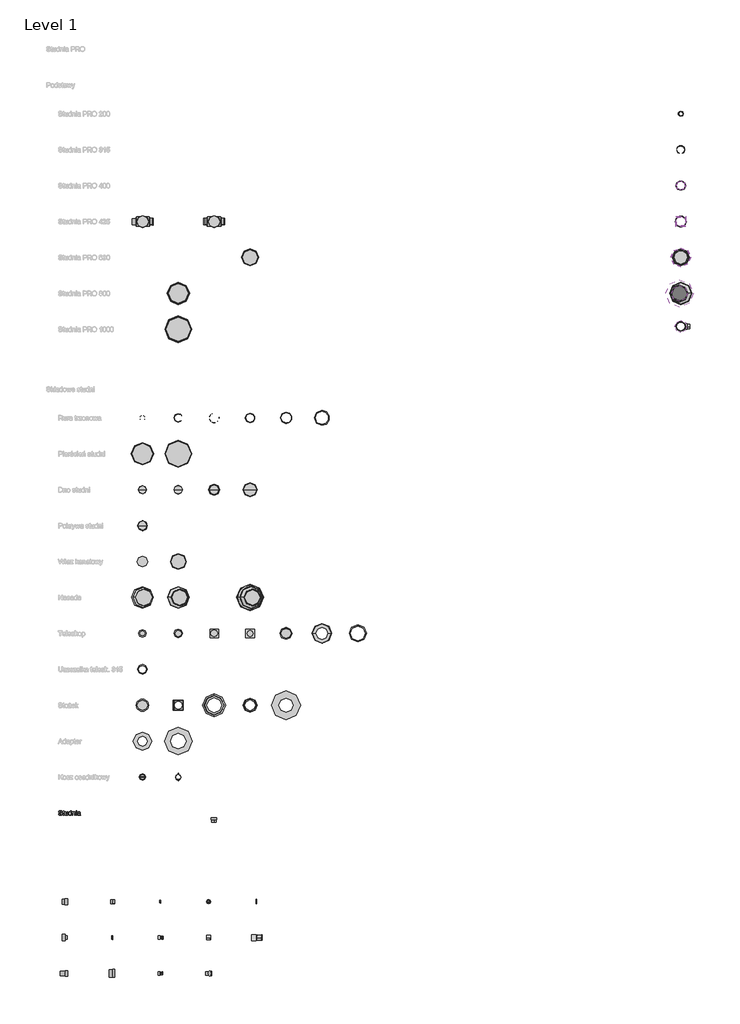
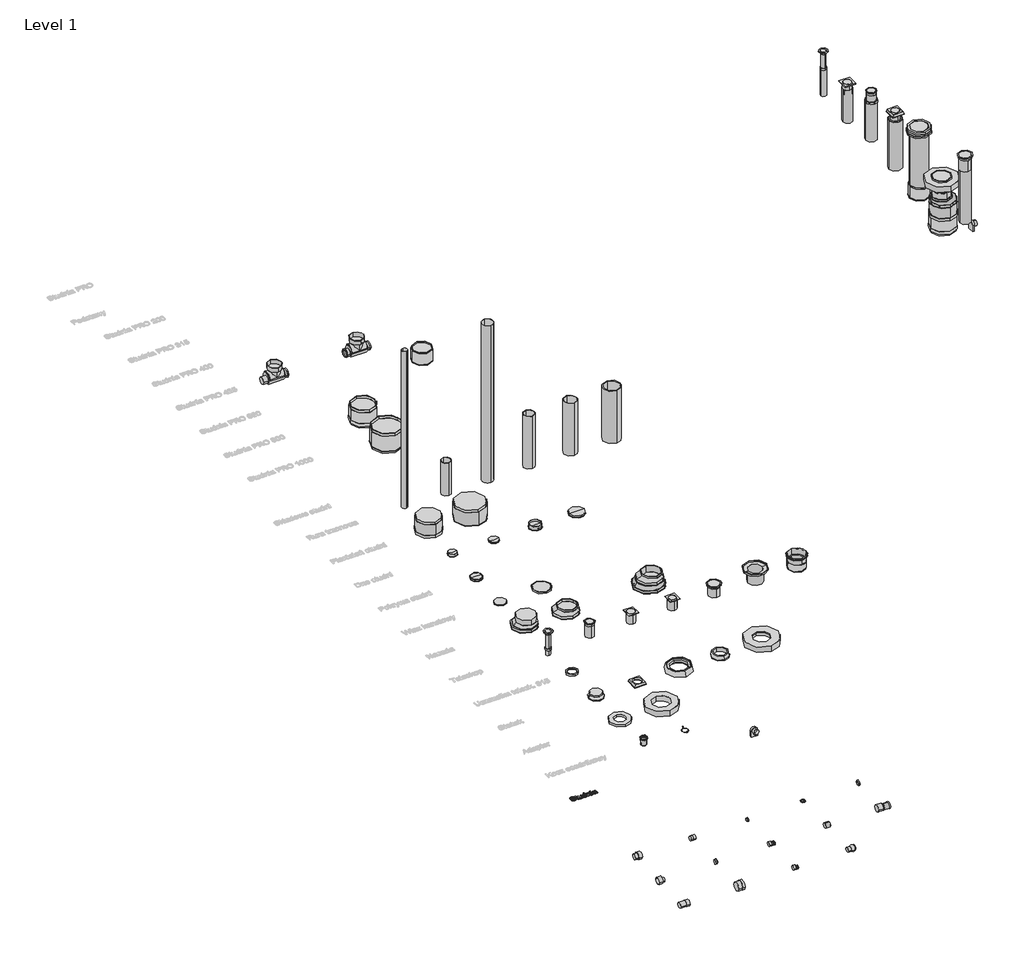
# One storey, part 1 of 8: 66 valves, 14 pipe fittings, 1 proxy.
"""IFC4 building model written with IfcOpenShell, lengths in millimetres."""

from ifc_helpers import new_model, si_unit, origin, origin_with_axes, place, context, project, spatial, polyline, outline, extrude, transform, mapped, element, save
from components import pipe_fitting_79d5e3d9, pipe_fitting_346089aa, pipe_fitting_110_109a62c0, pipe_fitting_160_e1f47460, pipe_fitting_160x110_0f95f1a0, pipe_fitting_160x110_c4fcdbd0, pipe_fitting_160x160_6d9ae933, pipe_fitting_160x160_850765b0, pipe_fitting_160x160_2ca06f0c, pipe_fitting_200x160_0dcb651a, pipe_fitting_200x200_617974e3, pipe_fitting_200x200_a64cda1f, pipe_fitting_250x200_7158146f, pipe_fitting_315_8c4225d6, valve_a0bac036, valve_feb3e114, valve_56759144, valve_1048b207, valve_d2fa7df9, valve_3579990f, valve_25467aee, valve_d6b15d58, valve_ca00817b, valve_e50346d1, valve_9825414c, valve_9f40fc60, valve_42a25ea8, valve_c357f794, valve_339d7062, valve_5dc0aaa4, valve_d2f8fbc1, valve_f12f18ea, valve_bdd338f0, valve_491c27f9, valve_392ff049, valve_39b67e25, valve_c10afcef, valve_4ef3ddab, valve_b0f5689b, valve_868bf9e1, valve_0c5388d3, valve_ff07b4d1, valve_2b3d439d, valve_7e2185a8, valve_fa0df5e9, valve_207184b5, valve_eae6d5a1, valve_f968a85a, valve_2651ab11, valve_3d2135d6, valve_0_5_m_eb5ad9ef, valve_0_5_m_b7d96e5e, valve_1_5t_425_a15_512f01ac, valve_200_07a3bc92, valve_200_4_9_6_sn4_cd438cc4, valve_200_4_9_6_sn4_7fdc520a, valve_315_1_25_sn2_7f3b5fe2, valve_40_0t_425_d400_60aed603, valve_400_2_sn12_0a42e273, valve_400_2_sn8_cz_ebfe10f1, valve_400_7_9_6_sn2_7e950949, valve_425_2_sn2_5506c44e, valve_425_2_sn4_35a93310, valve_630_2_sn12_89dc7bf2, dw_400_6bda61c0, t15_e50f0c8e, t30k_8f69c86d

model = new_model("IFC4")

# Units and contexts
model_context = context("Model", 3, world=origin())
ifc_project = project(units=[si_unit("LENGTHUNIT", "METRE", prefix="MILLI")], contexts=[model_context])

# Site, building, storey
site = spatial("IfcSite", under=ifc_project)
building = spatial("IfcBuilding", under=site)
storey = spatial("IfcBuildingStorey", under=building, Name="Level 1", Elevation=0.0)

# Proxy
placement = place(None, origin())
element("IfcBuildingElementProxy", 1, Name="200mm Arial", ObjectType="200mm Arial", at=placement, inside=storey, context=model_context, shape_type="SweptSolid", body=[
    extrude(outline(polyline([(-16840.1100864, -29444.8858597), (-16814.9960089, -29444.8858597), (-16806.902605, -29470.0244627), (-16798.7724129, -29478.9149443), (-16787.1350791, -29485.9169649), (-16772.9103087, -29490.4603076), (-16757.0178065, -29491.9747551), (-16730.7755575, -29487.3884929), (-16713.8284602, -29474.7824032), (-16708.2611794, -29457.9334078), (-16712.4305087, -29442.2616348), (-16718.7826044, -29436.0628232), (-16729.5002332, -29430.857293), (-16766.0677036, -29421.2678356), (-16805.431077, -29408.8824751), (-16817.9329335, -29400.433452), (-16826.7927582, -29390.1940698), (-16832.0718649, -29378.3850577), (-16833.8315671, -29365.227145), (-16831.6549319, -29350.5179966), (-16825.1250265, -29336.8021295), (-16814.4135291, -29325.1770585), (-16799.6921179, -29316.7402981), (-16782.0215194, -29311.6083442), (-16762.46246, -29309.897693), (-16741.2724571, -29311.688052), (-16722.7312045, -29317.0591291), (-16707.5008899, -29325.9005598), (-16696.2437009, -29338.1019793), (-16689.1190529, -29352.9030982), (-16686.2863615, -29369.5436271), (-16711.4004391, -29369.5436271), (-16716.0112267, -29354.5585672), (-16725.6252095, -29343.7428365), (-16740.6470577, -29337.194537), (-16761.4814413, -29335.0117705), (-16782.8063343, -29337.1700115), (-16797.435775, -29343.6447347), (-16805.8970609, -29353.1728783), (-16808.7174895, -29364.491381), (-16806.718664, -29374.1421521), (-16800.7221875, -29381.9044622), (-16786.5464679, -29388.8451691), (-16759.7156078, -29395.9330289), (-16715.2754628, -29408.5391186), (-16700.9587218, -29417.6503293), (-16690.9707256, -29428.8952557), (-16685.1030078, -29442.1512702), (-16683.1471018, -29457.2957457), (-16685.3973134, -29472.7774463), (-16692.147948, -29487.339442), (-16703.1230942, -29499.8719553), (-16718.0468404, -29509.2652089), (-16735.9933504, -29515.1329267), (-16756.0367878, -29517.0888326), (-16780.6419619, -29514.9796425), (-16800.8938658, -29508.6520722), (-16817.0254912, -29498.0815962), (-16829.2698303, -29483.2436891), (-16837.1302423, -29465.1684204), (-16840.1100864, -29444.8858597)])), origin_with_axes(), (0.0, 0.0, 1.0), 20.0),
    extrude(outline(polyline([(-16595.2478305, -29493.0048247), (-16592.1085708, -29514.6853369), (-16610.895078, -29517.0888326), (-16631.9379281, -29512.9195034), (-16642.4348277, -29501.9811454), (-16645.4759855, -29473.4825535), (-16645.4759855, -29391.518445), (-16664.3115437, -29391.518445), (-16664.3115437, -29366.4043674), (-16645.4759855, -29366.4043674), (-16645.4759855, -29330.5481356), (-16620.361908, -29315.7838049), (-16620.361908, -29366.4043674), (-16595.2478305, -29366.4043674), (-16595.2478305, -29391.518445), (-16620.361908, -29391.518445), (-16620.361908, -29472.7467895), (-16619.0375328, -29485.6962357), (-16614.7455762, -29490.2824979), (-16606.1861884, -29491.9747551), (-16595.2478305, -29493.0048247)])), origin_with_axes(), (0.0, 0.0, 1.0), 20.0),
    extrude(outline(polyline([(-16475.9559622, -29513.949573), (-16475.9559622, -29488.5902408), (-16485.0426474, -29501.0583747), (-16495.6253862, -29509.9641847), (-16507.7041783, -29515.3076707), (-16521.279024, -29517.0888326), (-16544.8970481, -29512.0856375), (-16561.1819577, -29499.5285987), (-16568.6622249, -29481.0363971), (-16570.1337529, -29457.6881532), (-16570.1337529, -29366.4043674), (-16545.0196754, -29366.4043674), (-16545.0196754, -29445.8668784), (-16543.4990965, -29471.4714652), (-16539.8386706, -29480.0124589), (-16533.5662826, -29486.5055761), (-16514.8533518, -29491.9747551), (-16493.8840781, -29486.3829488), (-16485.5270254, -29479.779467), (-16480.0271896, -29471.1526342), (-16475.9559622, -29443.1690771), (-16475.9559622, -29366.4043674), (-16450.8418846, -29366.4043674), (-16450.8418846, -29513.949573), (-16475.9559622, -29513.949573)])), origin_with_axes(), (0.0, 0.0, 1.0), 20.0),
    extrude(outline(polyline([(-16325.2714969, -29513.949573), (-16325.2714969, -29490.2579725), (-16332.7854867, -29501.9964738), (-16341.8875004, -29510.3811176), (-16352.577538, -29515.4119039), (-16364.8555996, -29517.0888326), (-16381.0914583, -29514.6608115), (-16395.9538909, -29507.376748), (-16408.5354552, -29495.7455456), (-16417.9287088, -29480.2761077), (-16423.7780325, -29461.5938337), (-16425.7278071, -29440.324123), (-16423.9313167, -29419.3180611), (-16418.5418454, -29400.3476128), (-16409.5655248, -29384.4918989), (-16397.008486, -29372.8300396), (-16381.821091, -29365.6563407), (-16364.9537015, -29363.2651077), (-16352.6664428, -29364.975759), (-16341.8016612, -29370.1077128), (-16325.2714969, -29387.8886759), (-16325.2714969, -29313.0369527), (-16300.1574194, -29313.0369527), (-16300.1574194, -29513.949573), (-16325.2714969, -29513.949573)]), holes=[polyline([(-16400.6137295, -29440.2260211), (-16397.7810382, -29462.9427343), (-16389.2829641, -29479.0988853), (-16376.9343918, -29488.7557877), (-16362.5502058, -29491.9747551), (-16348.1721511, -29488.9029404), (-16336.1362785, -29479.6874965), (-16327.9876923, -29464.1567449), (-16325.2714969, -29442.1390075), (-16328.0367433, -29418.0672623), (-16336.3324823, -29401.3776824), (-16348.6749232, -29391.6288096), (-16363.5802754, -29388.3791853), (-16378.1116142, -29391.5000509), (-16390.0187281, -29400.8626476), (-16397.9649792, -29416.9452222), (-16400.6137295, -29440.2260211)])]), origin_with_axes(), (0.0, 0.0, 1.0), 20.0),
    extrude(outline(polyline([(-16262.4863031, -29513.949573), (-16262.4863031, -29366.4043674), (-16237.3722255, -29366.4043674), (-16237.3722255, -29387.0057592), (-16228.6472909, -29376.6192242), (-16218.1687854, -29369.2002706), (-16205.9367091, -29364.7488984), (-16191.9510619, -29363.2651077), (-16168.2349359, -29368.0475737), (-16152.0481281, -29380.6046124), (-16144.51881, -29399.0722886), (-16143.1944348, -29423.3525003), (-16143.1944348, -29513.949573), (-16168.3085123, -29513.949573), (-16168.3085123, -29426.7370146), (-16171.2025174, -29404.5169421), (-16181.4296368, -29392.7692437), (-16198.6710397, -29388.3791853), (-16213.3801881, -29390.8439946), (-16225.9188328, -29398.2384227), (-16234.5088774, -29412.5245069), (-16237.3722255, -29435.6642844), (-16237.3722255, -29513.949573), (-16262.4863031, -29513.949573)])), origin_with_axes(), (0.0, 0.0, 1.0), 20.0),
    extrude(outline(polyline([(-16108.6625782, -29338.1510302), (-16108.6625782, -29313.0369527), (-16083.5485006, -29313.0369527), (-16083.5485006, -29338.1510302), (-16108.6625782, -29338.1510302)])), origin_with_axes(), (0.0, 0.0, 1.0), 20.0),
    extrude(outline(polyline([(-16108.6625782, -29513.949573), (-16108.6625782, -29366.4043674), (-16083.5485006, -29366.4043674), (-16083.5485006, -29513.949573), (-16108.6625782, -29513.949573)])), origin_with_axes(), (0.0, 0.0, 1.0), 20.0),
    extrude(outline(polyline([(-15951.6995936, -29495.1140148), (-15976.0533816, -29512.1346884), (-16002.9578182, -29517.0888326), (-16023.945486, -29514.1089885), (-16039.4271867, -29505.169456), (-16048.9737245, -29491.5946104), (-16052.1559037, -29474.7088268), (-16047.3489123, -29454.8431991), (-16034.7182971, -29440.4222249), (-16017.1335378, -29432.1816682), (-15995.4039746, -29428.4047463), (-15951.8467464, -29419.7717822), (-15951.6995936, -29414.1799759), (-15953.4286389, -29402.9718377), (-15958.6157751, -29395.6387233), (-15970.2163207, -29390.1940698), (-15986.378603, -29388.3791853), (-16001.3391374, -29389.5870645), (-16011.7869861, -29393.2107021), (-16018.9116341, -29399.9122858), (-16023.9025665, -29410.3540031), (-16049.016644, -29407.2147434), (-16038.1518624, -29382.6892771), (-16028.8934989, -29374.4364576), (-16016.2751464, -29368.3173538), (-15983.1412414, -29363.2651077), (-15952.7051377, -29367.7287426), (-15935.5127858, -29378.9368807), (-15927.8117893, -29395.9820798), (-15926.585516, -29417.9568977), (-15926.585516, -29449.2023418), (-15925.3101918, -29492.8331464), (-15920.3069966, -29513.949573), (-15945.4210742, -29513.949573), (-15951.6995936, -29495.1140148)]), holes=[polyline([(-15951.6995936, -29444.8858597), (-15992.215664, -29452.5868562), (-16013.8225998, -29456.6580836), (-16023.6082609, -29463.2799595), (-16027.0418262, -29472.9429932), (-16025.1717594, -29480.4109977), (-16019.5615589, -29486.5301016), (-16010.3338522, -29490.6135917), (-15997.6112666, -29491.9747551), (-15984.1222601, -29490.4725703), (-15972.2028834, -29485.9660159), (-15955.8198719, -29471.4224143), (-15951.8467464, -29451.998245), (-15951.6995936, -29444.8858597)])]), origin_with_axes(), (0.0, 0.0, 1.0), 20.0),
])

# Pipe fittings
pipe_fitting_shape = pipe_fitting_79d5e3d9(model_context)
element("IfcPipeFitting", 2, ObjectType="Pipelife - Studnia PRO - KZ Uszczelka 4-warg : 110/138", at=placement, inside=storey, context=model_context, shape_type="MappedRepresentation", body=[
    mapped(pipe_fitting_shape, transform((-10569.6065788, -33113.949573, 0.0), x_axis=(1.0, 0.0, 0.0), y_axis=(0.0, 1.0, 0.0), z_axis=(0.0, 0.0, 1.0))),
])
pipe_fitting_2_shape = pipe_fitting_346089aa(model_context)
element("IfcPipeFitting", 3, ObjectType="Pipelife - Pragma OD - Pierścień z uszczelką_studnia : Pipelife - Pragma OD - Pierścień z uszczelką_studnia", at=placement, inside=storey, context=model_context, shape_type="MappedRepresentation", body=[
    mapped(pipe_fitting_2_shape, transform((-8569.6065788, -33113.949573, 0.0), x_axis=(1.0, 0.0, 0.0), y_axis=(0.0, 1.0, 0.0), z_axis=(0.0, 0.0, 1.0))),
])
pipe_fitting_110_shape = pipe_fitting_110_109a62c0(model_context)
element("IfcPipeFitting", 4, ObjectType="Pipelife - PVC-U - Korek kanalizacyjny_studnia : 110", at=placement, inside=storey, context=model_context, shape_type="MappedRepresentation", body=[
    mapped(pipe_fitting_110_shape, transform((-12569.6065788, -33113.949573, 0.0), x_axis=(1.0, 0.0, 0.0), y_axis=(0.0, 1.0, 0.0), z_axis=(0.0, 0.0, 1.0))),
])
pipe_fitting_160_shape = pipe_fitting_160_e1f47460(model_context)
element("IfcPipeFitting", 5, ObjectType="Pipelife - PVC-U - Korek kanalizacyjny długi_studnia : 160", at=placement, inside=storey, context=model_context, shape_type="MappedRepresentation", body=[
    mapped(pipe_fitting_160_shape, transform((-14569.6065788, -34613.949573, 0.0), x_axis=(1.0, 0.0, 0.0), y_axis=(0.0, 1.0, 0.0), z_axis=(0.0, 0.0, 1.0))),
])
pipe_fitting_160x110_shape = pipe_fitting_160x110_0f95f1a0(model_context)
element("IfcPipeFitting", 6, ObjectType="Pipelife - PVC-U - Redukcja kanalizacyjna SDR34 SILVER LOCK_studnia : 160x110", at=placement, inside=storey, context=model_context, shape_type="MappedRepresentation", body=[
    mapped(pipe_fitting_160x110_shape, transform((-12569.6065788, -34613.949573, 0.0), x_axis=(1.0, 0.0, 0.0), y_axis=(0.0, 1.0, 0.0), z_axis=(0.0, 0.0, 1.0))),
])
pipe_fitting_160x110_2_shape = pipe_fitting_160x110_c4fcdbd0(model_context)
element("IfcPipeFitting", 7, ObjectType="Pipelife - PVC-U - Redukcja kanalizacyjna_studnia : 160x110", at=placement, inside=storey, context=model_context, shape_type="MappedRepresentation", body=[
    mapped(pipe_fitting_160x110_2_shape, transform((-12569.6065788, -36113.949573, 0.0), x_axis=(1.0, 0.0, 0.0), y_axis=(0.0, 1.0, 0.0), z_axis=(0.0, 0.0, 1.0))),
])
pipe_fitting_160x160_shape = pipe_fitting_160x160_6d9ae933(model_context)
element("IfcPipeFitting", 8, ObjectType="Pipelife - Pragma OD - Złączka do kielicha PVC_studnia : 160x160", at=placement, inside=storey, context=model_context, shape_type="MappedRepresentation", body=[
    mapped(pipe_fitting_160x160_shape, transform((-14569.6065788, -33113.949573, 0.0), x_axis=(1.0, 0.0, 0.0), y_axis=(0.0, 1.0, 0.0), z_axis=(0.0, 0.0, 1.0))),
])
pipe_fitting_160x160_2_shape = pipe_fitting_160x160_850765b0(model_context)
element("IfcPipeFitting", 9, ObjectType="Pipelife - Studnia PRO - Łącznik 7.5° : 160x160", at=placement, inside=storey, context=model_context, shape_type="MappedRepresentation", body=[
    mapped(pipe_fitting_160x160_2_shape, transform((-10569.6065788, -34613.949573, 0.0), x_axis=(1.0, 0.0, 0.0), y_axis=(0.0, 1.0, 0.0), z_axis=(0.0, 0.0, 1.0))),
])
pipe_fitting_160x160_3_shape = pipe_fitting_160x160_2ca06f0c(model_context)
element("IfcPipeFitting", 10, ObjectType="Pipelife - Studnia PRO - Łącznik 15° : 160x160", at=placement, inside=storey, context=model_context, shape_type="MappedRepresentation", body=[
    mapped(pipe_fitting_160x160_3_shape, transform((-10569.6065788, -36113.949573, 0.0), x_axis=(1.0, 0.0, 0.0), y_axis=(0.0, 1.0, 0.0), z_axis=(0.0, 0.0, 1.0))),
])
pipe_fitting_200x160_shape = pipe_fitting_200x160_0dcb651a(model_context)
element("IfcPipeFitting", 11, ObjectType="Pipelife - Pragma +ID - Redukcja kanalizacyjna kielich_studnia : 200x160", at=placement, inside=storey, context=model_context, shape_type="MappedRepresentation", body=[
    mapped(pipe_fitting_200x160_shape, transform((-16569.6065788, -34613.949573, 0.0), x_axis=(1.0, 0.0, 0.0), y_axis=(0.0, 1.0, 0.0), z_axis=(0.0, 0.0, 1.0))),
])
pipe_fitting_200x200_shape = pipe_fitting_200x200_617974e3(model_context)
element("IfcPipeFitting", 12, ObjectType="Pipelife - Pragma +ID - Adaptor kanalizacyjny kielich_studnia : 200x200", at=placement, inside=storey, context=model_context, shape_type="MappedRepresentation", body=[
    mapped(pipe_fitting_200x200_shape, transform((-16569.6065788, -33113.949573, 0.0), x_axis=(1.0, 0.0, 0.0), y_axis=(0.0, 1.0, 0.0), z_axis=(0.0, 0.0, 1.0))),
])
pipe_fitting_200x200_2_shape = pipe_fitting_200x200_a64cda1f(model_context)
element("IfcPipeFitting", 13, ObjectType="Pipelife - Pragma OD - Adaptor kanalizacyjny_studnia : 200x200", at=placement, inside=storey, context=model_context, shape_type="MappedRepresentation", body=[
    mapped(pipe_fitting_200x200_2_shape, transform((-16569.6065788, -36113.949573, 0.0), x_axis=(1.0, 0.0, 0.0), y_axis=(0.0, 1.0, 0.0), z_axis=(0.0, 0.0, 1.0))),
])
pipe_fitting_250x200_shape = pipe_fitting_250x200_7158146f(model_context)
element("IfcPipeFitting", 14, ObjectType="Pipelife - PP - Redukcja kanalizacyjna_studnia : 250x200", at=placement, inside=storey, context=model_context, shape_type="MappedRepresentation", body=[
    mapped(pipe_fitting_250x200_shape, transform((-8569.6065788, -34613.949573, 0.0), x_axis=(1.0, 0.0, 0.0), y_axis=(0.0, 1.0, 0.0), z_axis=(0.0, 0.0, 1.0))),
])
pipe_fitting_315_shape = pipe_fitting_315_8c4225d6(model_context)
element("IfcPipeFitting", 15, ObjectType="Pipelife - PVC-U - Korek kanalizacyjny SDR34_studnia : 315", at=placement, inside=storey, context=model_context, shape_type="MappedRepresentation", body=[
    mapped(pipe_fitting_315_shape, transform((-14569.6065788, -36113.949573, 0.0), x_axis=(1.0, 0.0, 0.0), y_axis=(0.0, 1.0, 0.0), z_axis=(0.0, 0.0, 1.0))),
])

# Valves
valve_shape = valve_a0bac036(model_context)
element("IfcValve", 16, ObjectType="Pipelife - Studnia PRO 425 - Kineta studni przelotowa GŁ 1M G1 : 425 p GŁ 250 1M G1", at=placement, inside=storey, context=model_context, shape_type="MappedRepresentation", body=[
    mapped(valve_shape, transform((-13313.9953698, -4713.949573, 0.0), x_axis=(1.0, 0.0, 0.0), y_axis=(0.0, 1.0, 0.0), z_axis=(0.0, 0.0, 1.0))),
])
valve_2_shape = valve_feb3e114(model_context)
element("IfcValve", 17, ObjectType="Pipelife - Studnia PRO 425 - Kineta studni przelotowa PR 2M G1 : 425 p GŁ 200 2M G1", at=placement, inside=storey, context=model_context, shape_type="MappedRepresentation", body=[
    mapped(valve_2_shape, transform((-10332.6671252, -4713.949573, 0.0), x_axis=(1.0, 0.0, 0.0), y_axis=(0.0, 1.0, 0.0), z_axis=(0.0, 0.0, 1.0))),
])
valve_3_shape = valve_56759144(model_context)
element("IfcValve", 18, ObjectType="Pipelife - Studnia PRO 630 - Kineta studni ślepa : 630 ślepa", at=placement, inside=storey, context=model_context, shape_type="MappedRepresentation", body=[
    mapped(valve_3_shape, transform((-8832.6671252, -6213.949573, 0.0), x_axis=(1.0, 0.0, 0.0), y_axis=(0.0, 1.0, 0.0), z_axis=(0.0, 0.0, 1.0))),
])
element("IfcValve", 19, ObjectType="Pipelife - Studnia PRO 630 - Kineta studni ślepa : 630 ślepa", at=placement, inside=storey, context=model_context, shape_type="MappedRepresentation", body=[
    mapped(valve_3_shape, transform((9167.3328748, -6213.949573, 0.0), x_axis=(1.0, 0.0, 0.0), y_axis=(0.0, 1.0, 0.0), z_axis=(0.0, 0.0, 1.0))),
])
valve_4_shape = valve_1048b207(model_context)
element("IfcValve", 20, ObjectType="Pipelife - Studnia PRO 800 - Kineta studni ślepa : 800 ślepa", at=placement, inside=storey, context=model_context, shape_type="MappedRepresentation", body=[
    mapped(valve_4_shape, transform((-11832.6671252, -7713.949573, 0.0), x_axis=(1.0, 0.0, 0.0), y_axis=(0.0, 1.0, 0.0), z_axis=(0.0, 0.0, 1.0))),
])
element("IfcValve", 21, ObjectType="Pipelife - Studnia PRO 800 - Kineta studni ślepa : 800 ślepa", at=placement, inside=storey, context=model_context, shape_type="MappedRepresentation", body=[
    mapped(valve_4_shape, transform((9167.3328748, -7713.949573, 0.0), x_axis=(1.0, 0.0, 0.0), y_axis=(0.0, 1.0, 0.0), z_axis=(0.0, 0.0, 1.0))),
])
valve_5_shape = valve_d2fa7df9(model_context)
element("IfcValve", 22, ObjectType="Pipelife - Studnia PRO 1000 - Kineta studni ślepa : 1000 ślepa", at=placement, inside=storey, context=model_context, shape_type="MappedRepresentation", body=[
    mapped(valve_5_shape, transform((-11832.6671252, -9213.949573, 0.0), x_axis=(1.0, 0.0, 0.0), y_axis=(0.0, 1.0, 0.0), z_axis=(0.0, 0.0, 1.0))),
])
valve_6_shape = valve_3579990f(model_context)
element("IfcValve", 23, ObjectType="Pipelife - Studnia PRO - Adapter tworzywowy : Studnia Adapter TX765/410 pod wpust 600 ze stopą 700", at=placement, inside=storey, context=model_context, shape_type="MappedRepresentation", body=[
    mapped(valve_6_shape, transform((-13332.6671252, -26413.949573, 0.0), x_axis=(1.0, 0.0, 0.0), y_axis=(0.0, 1.0, 0.0), z_axis=(0.0, 0.0, 1.0))),
])
valve_7_shape = valve_25467aee(model_context)
element("IfcValve", 24, ObjectType="Pipelife - Studnia PRO - Kosz osadnikowy : OC H250", at=placement, inside=storey, context=model_context, shape_type="MappedRepresentation", body=[
    mapped(valve_7_shape, transform((-13332.6671252, -27913.949573, 0.0), x_axis=(1.0, 0.0, 0.0), y_axis=(0.0, 1.0, 0.0), z_axis=(0.0, 0.0, 1.0))),
])
valve_8_shape = valve_d6b15d58(model_context)
element("IfcValve", 25, ObjectType="Pipelife - Studnia PRO - Pierścień : Studnia Pierścień odciążający do studni 630", at=placement, inside=storey, context=model_context, shape_type="MappedRepresentation", body=[
    mapped(valve_8_shape, transform((-11832.6671252, -26413.949573, 0.0), x_axis=(1.0, 0.0, 0.0), y_axis=(0.0, 1.0, 0.0), z_axis=(0.0, 0.0, 1.0))),
])
valve_9_shape = valve_ca00817b(model_context)
element("IfcValve", 26, ObjectType="Pipelife - Studnia PRO - Pierścień : Studnia Pierścień dystansowy 600 H=100", at=placement, inside=storey, context=model_context, shape_type="MappedRepresentation", body=[
    mapped(valve_9_shape, transform((9167.3328748, -6213.949573, 2448.0), x_axis=(0.0, -1.0, 0.0), y_axis=(1.0, 0.0, 0.0), z_axis=(0.0, 0.0, 1.0))),
])
valve_10_shape = valve_e50346d1(model_context)
element("IfcValve", 27, ObjectType="Pipelife - Studnia PRO - Stożek betonowy : Stożek beton z pokr bet 200", at=placement, inside=storey, context=model_context, shape_type="MappedRepresentation", body=[
    mapped(valve_10_shape, transform((-13332.6671252, -24913.949573, 0.0), x_axis=(1.0, 0.0, 0.0), y_axis=(0.0, 1.0, 0.0), z_axis=(0.0, 0.0, 1.0))),
])
valve_11_shape = valve_9825414c(model_context)
element("IfcValve", 28, ObjectType="Pipelife - Studnia PRO - Stożek odciążający 315 pod teleskop klasy D : Stożek odciążający TX315N355U", at=placement, inside=storey, context=model_context, shape_type="MappedRepresentation", body=[
    mapped(valve_11_shape, transform((-11832.6671252, -24913.949573, 0.0), x_axis=(1.0, 0.0, 0.0), y_axis=(0.0, 1.0, 0.0), z_axis=(0.0, 0.0, 1.0))),
])
valve_12_shape = valve_9f40fc60(model_context)
element("IfcValve", 29, ObjectType="Pipelife - Studnia PRO - Stożek odciążający 630 : Studnia Stożek odciążający T3 615/700", at=placement, inside=storey, context=model_context, shape_type="MappedRepresentation", body=[
    mapped(valve_12_shape, transform((-10332.6671252, -24913.949573, 0.0), x_axis=(1.0, 0.0, 0.0), y_axis=(0.0, 1.0, 0.0), z_axis=(0.0, 0.0, 1.0))),
])
valve_13_shape = valve_42a25ea8(model_context)
element("IfcValve", 30, ObjectType="Pipelife - Studnia PRO - Stożek odciążający 425 pod teleskop klasy D : Stożek odciążający T3 400N", at=placement, inside=storey, context=model_context, shape_type="MappedRepresentation", body=[
    mapped(valve_13_shape, transform((-8832.6671252, -24913.949573, 0.0), x_axis=(1.0, 0.0, 0.0), y_axis=(0.0, 1.0, 0.0), z_axis=(0.0, 0.0, 1.0))),
])
valve_14_shape = valve_c357f794(model_context)
element("IfcValve", 31, ObjectType="Pipelife - Studnia PRO - Stożek żelbetowy do studni 800_1000 : Stożek beton do studni 800/1000", at=placement, inside=storey, context=model_context, shape_type="MappedRepresentation", body=[
    mapped(valve_14_shape, transform((-7332.6671252, -24913.949573, 0.0), x_axis=(1.0, 0.0, 0.0), y_axis=(0.0, 1.0, 0.0), z_axis=(0.0, 0.0, 1.0))),
])
valve_15_shape = valve_339d7062(model_context)
element("IfcValve", 32, ObjectType="Pipelife - Studnia PRO - Teleskop 315 : 1.5t/315/400 A15 T05D", at=placement, inside=storey, context=model_context, shape_type="MappedRepresentation", body=[
    mapped(valve_15_shape, transform((-8832.6671252, -21913.949573, 0.0), x_axis=(1.0, 0.0, 0.0), y_axis=(0.0, 1.0, 0.0), z_axis=(0.0, 0.0, 1.0))),
])
valve_16_shape = valve_5dc0aaa4(model_context)
element("IfcValve", 33, ObjectType="Pipelife - Studnia PRO - Właz : Właz kanałowy 600 kl. A15 H50", at=placement, inside=storey, context=model_context, shape_type="MappedRepresentation", body=[
    mapped(valve_16_shape, transform((-11832.6671252, -18913.949573, 0.0), x_axis=(1.0, 0.0, 0.0), y_axis=(0.0, 1.0, 0.0), z_axis=(0.0, 0.0, 1.0))),
])
element("IfcValve", 34, ObjectType="Pipelife - Studnia PRO - Właz : Właz kanałowy 600 kl. A15 H50", at=placement, inside=storey, context=model_context, shape_type="MappedRepresentation", body=[
    mapped(valve_16_shape, transform((9111.8328748, -7713.949573, 1606.5), x_axis=(0.0, 1.0, 0.0), y_axis=(-1.0, 0.0, 0.0), z_axis=(0.0, 0.0, 1.0))),
])
valve_17_shape = valve_d2f8fbc1(model_context)
element("IfcValve", 35, ObjectType="Pipelife - Studnia PRO - Właz : Właz kl.C250 b./went.H-80mm,żeliwno-betonowy OW", at=placement, inside=storey, context=model_context, shape_type="MappedRepresentation", body=[
    mapped(valve_17_shape, transform((9167.3328748, -6213.949573, 2548.0), x_axis=(1.0, 0.0, 0.0), y_axis=(0.0, 1.0, 0.0), z_axis=(0.0, 0.0, 1.0))),
])
valve_18_shape = valve_f12f18ea(model_context)
element("IfcValve", 36, ObjectType="Pipelife - Studnia PRO - Uszczelka teleskopowa : 400/315 DW", at=placement, inside=storey, context=model_context, shape_type="MappedRepresentation", body=[
    mapped(valve_18_shape, transform((9167.3328748, -3213.949573, 1772.0), x_axis=(-1.0, 0.0, 0.0), y_axis=(0.0, -1.0, 0.0), z_axis=(0.0, 0.0, 1.0))),
])
element("IfcValve", 37, ObjectType="Pipelife - Studnia PRO - Uszczelka teleskopowa : 400/315", at=placement, inside=storey, context=model_context, shape_type="MappedRepresentation", body=[
    mapped(valve_18_shape, transform((-13332.6671252, -23413.949573, 0.0), x_axis=(1.0, 0.0, 0.0), y_axis=(0.0, 1.0, 0.0), z_axis=(0.0, 0.0, 1.0))),
])
valve_19_shape = valve_bdd338f0(model_context)
element("IfcValve", 38, ObjectType="Pipelife - Studnia PRO - Uszczelka teleskopowa : 425/315", at=placement, inside=storey, context=model_context, shape_type="MappedRepresentation", body=[
    mapped(valve_19_shape, transform((9167.3328748, -4713.949573, 1952.0), x_axis=(-1.0, 0.0, 0.0), y_axis=(0.0, -1.0, 0.0), z_axis=(0.0, 0.0, 1.0))),
])
valve_20_shape = valve_491c27f9(model_context)
element("IfcValve", 39, ObjectType="Pipelife - Studnia PRO - Stożek odciążający 315 pod teleskop klasy D : Stożek odciążający TX315N355U", at=placement, inside=storey, context=model_context, shape_type="MappedRepresentation", body=[
    mapped(valve_20_shape, transform((9167.3328748, -4713.949573, 2024.0), x_axis=(0.0, -1.0, 0.0), y_axis=(1.0, 0.0, 0.0), z_axis=(0.0, 0.0, 1.0))),
])
valve_21_shape = valve_392ff049(model_context)
element("IfcValve", 40, ObjectType="Pipelife - Studnia PRO - Dno studni 630 : Dno studni", at=placement, inside=storey, context=model_context, shape_type="MappedRepresentation", body=[
    mapped(valve_21_shape, transform((-8832.6671252, -15913.949573, 0.0), x_axis=(1.0, 0.0, 0.0), y_axis=(0.0, 1.0, 0.0), z_axis=(0.0, 0.0, 1.0))),
])
valve_22_shape = valve_39b67e25(model_context)
element("IfcValve", 41, ObjectType="Pipelife - Studnia PRO - Nasada redukcyjna 800 : 800/630 + łącznik 630", at=placement, inside=storey, context=model_context, shape_type="MappedRepresentation", body=[
    mapped(valve_22_shape, transform((-13332.6671252, -20413.949573, 0.0), x_axis=(1.0, 0.0, 0.0), y_axis=(0.0, 1.0, 0.0), z_axis=(0.0, 0.0, 1.0))),
])
valve_23_shape = valve_c10afcef(model_context)
element("IfcValve", 42, ObjectType="Pipelife - Studnia PRO - Nasada redukcyjna z ząbkami do teleskopu 800 : 800/630 z ząbkami do teleskopu", at=placement, inside=storey, context=model_context, shape_type="MappedRepresentation", body=[
    mapped(valve_23_shape, transform((-11832.6671252, -20413.949573, 0.0), x_axis=(1.0, 0.0, 0.0), y_axis=(0.0, 1.0, 0.0), z_axis=(0.0, 0.0, 1.0))),
])
element("IfcValve", 43, ObjectType="Pipelife - Studnia PRO - Nasada redukcyjna z ząbkami do teleskopu 800 : 800/630 z ząbkami do teleskopu", at=placement, inside=storey, context=model_context, shape_type="MappedRepresentation", body=[
    mapped(valve_23_shape, transform((9167.3328748, -7713.949573, 703.5), x_axis=(-1.0, 0.0, 0.0), y_axis=(0.0, -1.0, 0.0), z_axis=(0.0, 0.0, 1.0))),
])
valve_24_shape = valve_4ef3ddab(model_context)
element("IfcValve", 44, ObjectType="Pipelife - Studnia PRO - Nasada redukcyjna z ząbkami do teleskopu 1000 : 1000/630 z ząbkami do teleskopu", at=placement, inside=storey, context=model_context, shape_type="MappedRepresentation", body=[
    mapped(valve_24_shape, transform((-8832.6671252, -20413.949573, 0.0), x_axis=(1.0, 0.0, 0.0), y_axis=(0.0, 1.0, 0.0), z_axis=(0.0, 0.0, 1.0))),
])
valve_25_shape = valve_b0f5689b(model_context)
element("IfcValve", 45, ObjectType="Pipelife - Studnia PRO - Dno studni 315 : Dno studni", at=placement, inside=storey, context=model_context, shape_type="MappedRepresentation", body=[
    mapped(valve_25_shape, transform((-13332.6671252, -15913.949573, 0.0), x_axis=(1.0, 0.0, 0.0), y_axis=(0.0, 1.0, 0.0), z_axis=(0.0, 0.0, 1.0))),
])
valve_26_shape = valve_868bf9e1(model_context)
element("IfcValve", 46, ObjectType="Pipelife - Studnia PRO - Dno studni 425 : Dno studni", at=placement, inside=storey, context=model_context, shape_type="MappedRepresentation", body=[
    mapped(valve_26_shape, transform((-10332.6671252, -15913.949573, 0.0), x_axis=(1.0, 0.0, 0.0), y_axis=(0.0, 1.0, 0.0), z_axis=(0.0, 0.0, 1.0))),
])
valve_27_shape = valve_0c5388d3(model_context)
element("IfcValve", 47, ObjectType="Pipelife - Studnia PRO - Pokrywa studni 400 : GŁ 400", at=placement, inside=storey, context=model_context, shape_type="MappedRepresentation", body=[
    mapped(valve_27_shape, transform((-13332.6671252, -17413.949573, 0.0), x_axis=(1.0, 0.0, 0.0), y_axis=(0.0, 1.0, 0.0), z_axis=(0.0, 0.0, 1.0))),
])
valve_28_shape = valve_ff07b4d1(model_context)
element("IfcValve", 48, ObjectType="Pipelife - Studnia PRO - Teleskop PP 630 : Teleskop PP 630 z kołnierzem dł. 515 mm", at=placement, inside=storey, context=model_context, shape_type="MappedRepresentation", body=[
    mapped(valve_28_shape, transform((-4332.6671252, -21913.949573, 0.0), x_axis=(1.0, 0.0, 0.0), y_axis=(0.0, 1.0, 0.0), z_axis=(0.0, 0.0, 1.0))),
])
element("IfcValve", 49, ObjectType="Pipelife - Studnia PRO - Teleskop PP 630 : Teleskop PP 630 z kołnierzem dł. 515 mm", at=placement, inside=storey, context=model_context, shape_type="MappedRepresentation", body=[
    mapped(valve_28_shape, transform((9111.8328748, -7713.949573, 931.5), x_axis=(0.0, -1.0, 0.0), y_axis=(1.0, 0.0, 0.0), z_axis=(0.0, 0.0, 1.0))),
])
valve_29_shape = valve_2b3d439d(model_context)
element("IfcValve", 50, ObjectType="Pipelife - Studnia PRO - Teleskop 160 z manszetą : 40.0t/200 D400 T20 z manszetą", at=placement, inside=storey, context=model_context, shape_type="MappedRepresentation", body=[
    mapped(valve_29_shape, transform((-13332.6671252, -21913.949573, 0.0), x_axis=(1.0, 0.0, 0.0), y_axis=(0.0, 1.0, 0.0), z_axis=(0.0, 0.0, 1.0))),
])
element("IfcValve", 51, ObjectType="Pipelife - Studnia PRO - Teleskop 160 z manszetą : 40.0t/200 D400 T20 z manszetą", at=placement, inside=storey, context=model_context, shape_type="MappedRepresentation", body=[
    mapped(valve_29_shape, transform((9167.3328748, -213.949573, 1194.5), x_axis=(-1.0, 0.0, 0.0), y_axis=(0.0, -1.0, 0.0), z_axis=(0.0, 0.0, 1.0))),
])
valve_30_shape = valve_7e2185a8(model_context)
element("IfcValve", 52, ObjectType="Pipelife - Studnia PRO - Teleskop 315 lita : 40.0t/315/400 D400 SN4 lita", at=placement, inside=storey, context=model_context, shape_type="MappedRepresentation", body=[
    mapped(valve_30_shape, transform((-11832.6671252, -21913.949573, 0.0), x_axis=(1.0, 0.0, 0.0), y_axis=(0.0, 1.0, 0.0), z_axis=(0.0, 0.0, 1.0))),
])
valve_31_shape = valve_fa0df5e9(model_context)
element("IfcValve", 53, ObjectType="Pipelife - Studnia PRO - Teleskop 315 lita : 40.0t/315/400 D400 SN8 lita", at=placement, inside=storey, context=model_context, shape_type="MappedRepresentation", body=[
    mapped(valve_31_shape, transform((9167.3328748, -3213.949573, 1844.0), x_axis=(0.0, -1.0, 0.0), y_axis=(1.0, 0.0, 0.0), z_axis=(0.0, 0.0, 1.0))),
])
valve_32_shape = valve_207184b5(model_context)
element("IfcValve", 54, ObjectType="Pipelife - Studnia PRO - Teleskop 315 z kratą : 1.5t/315/400 A15 T05DK", at=placement, inside=storey, context=model_context, shape_type="MappedRepresentation", body=[
    mapped(valve_32_shape, transform((-10332.6671252, -21913.949573, 0.0), x_axis=(1.0, 0.0, 0.0), y_axis=(0.0, 1.0, 0.0), z_axis=(0.0, 0.0, 1.0))),
])
valve_33_shape = valve_eae6d5a1(model_context)
element("IfcValve", 55, ObjectType="Pipelife - Studnia PRO - Teleskop 315 z kratą : 40.0t/315/400 D400K", at=placement, inside=storey, context=model_context, shape_type="MappedRepresentation", body=[
    mapped(valve_33_shape, transform((9167.3328748, -4713.949573, 2313.0), x_axis=(1.0, 0.0, 0.0), y_axis=(0.0, 1.0, 0.0), z_axis=(0.0, 0.0, 1.0))),
])
valve_34_shape = valve_f968a85a(model_context)
element("IfcValve", 56, ObjectType="Pipelife - Studnia PRO - Teleskop 315 : 1.5t/315/400 A15 z pokrywą z tworzywa", at=placement, inside=storey, context=model_context, shape_type="MappedRepresentation", body=[
    mapped(valve_34_shape, transform((9167.3328748, -1713.949573, 1379.5), x_axis=(-1.0, 0.0, 0.0), y_axis=(0.0, -1.0, 0.0), z_axis=(0.0, 0.0, 1.0))),
])
valve_35_shape = valve_2651ab11(model_context)
element("IfcValve", 57, ObjectType="Pipelife - Studnia PRO - Teleskop 630 : Teleskop", at=placement, inside=storey, context=model_context, shape_type="MappedRepresentation", body=[
    mapped(valve_35_shape, transform((-5832.6671252, -21913.949573, 0.0), x_axis=(1.0, 0.0, 0.0), y_axis=(0.0, 1.0, 0.0), z_axis=(0.0, 0.0, 1.0))),
])
element("IfcValve", 58, ObjectType="Pipelife - Studnia PRO - Teleskop 630 : Teleskop", at=placement, inside=storey, context=model_context, shape_type="MappedRepresentation", body=[
    mapped(valve_35_shape, transform((9167.3328748, -6213.949573, 1993.0), x_axis=(-1.0, 0.0, 0.0), y_axis=(0.0, -1.0, 0.0), z_axis=(0.0, 0.0, 1.0))),
])
valve_36_shape = valve_3d2135d6(model_context)
element("IfcValve", 59, ObjectType="Pipelife - Studnia PRO - Pierścień : Studnia Pierścień odciążający do studni 630", at=placement, inside=storey, context=model_context, shape_type="MappedRepresentation", body=[
    mapped(valve_36_shape, transform((9111.8328748, -7713.949573, 1446.5), x_axis=(1.0, 0.0, 0.0), y_axis=(0.0, 1.0, 0.0), z_axis=(0.0, 0.0, 1.0))),
])
valve_0_5_m_shape = valve_0_5_m_eb5ad9ef(model_context)
element("IfcValve", 60, ObjectType="Pipelife - Studnia PRO - Pierścień studni 800 : 0.5 m", at=placement, inside=storey, context=model_context, shape_type="MappedRepresentation", body=[
    mapped(valve_0_5_m_shape, transform((-13332.6671252, -14413.949573, 0.0), x_axis=(1.0, 0.0, 0.0), y_axis=(0.0, 1.0, 0.0), z_axis=(0.0, 0.0, 1.0))),
])
element("IfcValve", 61, ObjectType="Pipelife - Studnia PRO - Pierścień studni 800 : 0.5 m", at=placement, inside=storey, context=model_context, shape_type="MappedRepresentation", body=[
    mapped(valve_0_5_m_shape, transform((9167.3328748, -7713.949573, 202.5), x_axis=(1.0, 0.0, 0.0), y_axis=(0.0, 1.0, 0.0), z_axis=(0.0, 0.0, 1.0))),
])
valve_0_5_m_2_shape = valve_0_5_m_b7d96e5e(model_context)
element("IfcValve", 62, ObjectType="Pipelife - Studnia PRO - Pierścień studni 1000 : 0.5 m", at=placement, inside=storey, context=model_context, shape_type="MappedRepresentation", body=[
    mapped(valve_0_5_m_2_shape, transform((-11832.6671252, -14413.949573, 0.0), x_axis=(1.0, 0.0, 0.0), y_axis=(0.0, 1.0, 0.0), z_axis=(0.0, 0.0, 1.0))),
])
valve_1_5t_425_a15_shape = valve_1_5t_425_a15_512f01ac(model_context)
element("IfcValve", 63, ObjectType="Pipelife - Studnia PRO - Teleskop 425 : 1.5t/425 A15", at=placement, inside=storey, context=model_context, shape_type="MappedRepresentation", body=[
    mapped(valve_1_5t_425_a15_shape, transform((-7332.6671252, -21913.949573, 0.0), x_axis=(1.0, 0.0, 0.0), y_axis=(0.0, 1.0, 0.0), z_axis=(0.0, 0.0, 1.0))),
])
valve_200_shape = valve_200_07a3bc92(model_context)
element("IfcValve", 64, ObjectType="Pipelife - Studnia PRO - Syfon : 200", at=placement, inside=storey, context=model_context, shape_type="MappedRepresentation", body=[
    mapped(valve_200_shape, transform((-10344.1144137, -29618.949573, 334.0), x_axis=(0.0, -1.0, 0.0), y_axis=(1.0, 0.0, 0.0), z_axis=(0.0, 0.0, 1.0))),
])
element("IfcValve", 65, ObjectType="Pipelife - Studnia PRO - Syfon : 200", at=placement, inside=storey, context=model_context, shape_type="MappedRepresentation", body=[
    mapped(valve_200_shape, transform((9372.3328748, -9097.4913478, 334.0), x_axis=(1.0, 0.0, 0.0), y_axis=(0.0, 1.0, 0.0), z_axis=(0.0, 0.0, 1.0))),
])
valve_200_4_9_6_sn4_shape = valve_200_4_9_6_sn4_cd438cc4(model_context)
element("IfcValve", 66, ObjectType="Pipelife - Studnia PRO - PVC Rura kanal. trzonowa 200 : 200/4.9/6 SN4", at=placement, inside=storey, context=model_context, shape_type="MappedRepresentation", body=[
    mapped(valve_200_4_9_6_sn4_shape, transform((-13332.6671252, -12913.949573, 0.0), x_axis=(1.0, 0.0, 0.0), y_axis=(0.0, 1.0, 0.0), z_axis=(0.0, 0.0, 1.0))),
])
valve_200_4_9_6_sn4_2_shape = valve_200_4_9_6_sn4_7fdc520a(model_context)
element("IfcValve", 67, ObjectType="Pipelife - Studnia PRO - PVC Rura kanal. trzonowa 200 : 200/4.9/6 SN4", at=placement, inside=storey, context=model_context, shape_type="MappedRepresentation", body=[
    mapped(valve_200_4_9_6_sn4_2_shape, transform((9167.3328748, -213.949573, 194.5), x_axis=(0.0, 1.0, 0.0), y_axis=(-1.0, 0.0, 0.0), z_axis=(0.0, 0.0, 1.0))),
])
valve_315_1_25_sn2_shape = valve_315_1_25_sn2_7f3b5fe2(model_context)
element("IfcValve", 68, ObjectType="Pipelife - Studnia PRO - Rura trzonowa 315 : 315/1.25 SN2", at=placement, inside=storey, context=model_context, shape_type="MappedRepresentation", body=[
    mapped(valve_315_1_25_sn2_shape, transform((-11832.6671252, -12913.949573, 0.0), x_axis=(1.0, 0.0, 0.0), y_axis=(0.0, 1.0, 0.0), z_axis=(0.0, 0.0, 1.0))),
])
element("IfcValve", 69, ObjectType="Pipelife - Studnia PRO - Rura trzonowa 315 : 315/1.25 SN2", at=placement, inside=storey, context=model_context, shape_type="MappedRepresentation", body=[
    mapped(valve_315_1_25_sn2_shape, transform((9167.3328748, -1713.949573, 129.5), x_axis=(0.0, 1.0, 0.0), y_axis=(-1.0, 0.0, 0.0), z_axis=(0.0, 0.0, 1.0))),
])
valve_40_0t_425_d400_shape = valve_40_0t_425_d400_60aed603(model_context)
element("IfcValve", 70, ObjectType="Pipelife - Studnia PRO - Teleskop 425 : 40.0t/425 D400", at=placement, inside=storey, context=model_context, shape_type="MappedRepresentation", body=[
    mapped(valve_40_0t_425_d400_shape, transform((9167.3328748, -9097.4913478, 2750.0), x_axis=(-1.0, 0.0, 0.0), y_axis=(0.0, -1.0, 0.0), z_axis=(0.0, 0.0, 1.0))),
])
valve_400_2_sn12_shape = valve_400_2_sn12_0a42e273(model_context)
element("IfcValve", 71, ObjectType="Pipelife - Studnia PRO - Rura trzonowa 400 : 400/2 SN12", at=placement, inside=storey, context=model_context, shape_type="MappedRepresentation", body=[
    mapped(valve_400_2_sn12_shape, transform((9167.3328748, -9097.4913478, 750.0), x_axis=(0.0, 1.0, 0.0), y_axis=(-1.0, 0.0, 0.0), z_axis=(0.0, 0.0, 1.0))),
])
element("IfcValve", 72, ObjectType="Pipelife - Studnia PRO - Rura trzonowa 400 : 400/2 SN4 CZ", at=placement, inside=storey, context=model_context, shape_type="MappedRepresentation", body=[
    mapped(valve_400_2_sn12_shape, transform((-8832.6671252, -12913.949573, 0.0), x_axis=(1.0, 0.0, 0.0), y_axis=(0.0, 1.0, 0.0), z_axis=(0.0, 0.0, 1.0))),
])
valve_400_2_sn8_cz_shape = valve_400_2_sn8_cz_ebfe10f1(model_context)
element("IfcValve", 73, ObjectType="Pipelife - Studnia PRO - Rura trzonowa 400 : 400/2 SN8 CZ", at=placement, inside=storey, context=model_context, shape_type="MappedRepresentation", body=[
    mapped(valve_400_2_sn8_cz_shape, transform((9167.3328748, -3213.949573, 334.0), x_axis=(0.0, 1.0, 0.0), y_axis=(-1.0, 0.0, 0.0), z_axis=(0.0, 0.0, 1.0))),
])
valve_400_7_9_6_sn2_shape = valve_400_7_9_6_sn2_7e950949(model_context)
element("IfcValve", 74, ObjectType="Pipelife - Studnia PRO - PVC Rura kanal. trzonowa 400 : 400/7.9/6 SN2", at=placement, inside=storey, context=model_context, shape_type="MappedRepresentation", body=[
    mapped(valve_400_7_9_6_sn2_shape, transform((-10332.6671252, -12913.949573, 0.0), x_axis=(1.0, 0.0, 0.0), y_axis=(0.0, 1.0, 0.0), z_axis=(0.0, 0.0, 1.0))),
])
valve_425_2_sn2_shape = valve_425_2_sn2_5506c44e(model_context)
element("IfcValve", 75, ObjectType="Pipelife - Studnia PRO - Rura trzonowa 425 : 425/2 SN2", at=placement, inside=storey, context=model_context, shape_type="MappedRepresentation", body=[
    mapped(valve_425_2_sn2_shape, transform((-7332.6671252, -12913.949573, 0.0), x_axis=(1.0, 0.0, 0.0), y_axis=(0.0, 1.0, 0.0), z_axis=(0.0, 0.0, 1.0))),
])
valve_425_2_sn4_shape = valve_425_2_sn4_35a93310(model_context)
element("IfcValve", 76, ObjectType="Pipelife - Studnia PRO - Rura trzonowa 425 : 425/2 SN4", at=placement, inside=storey, context=model_context, shape_type="MappedRepresentation", body=[
    mapped(valve_425_2_sn4_shape, transform((9167.3328748, -4713.949573, 164.0), x_axis=(0.0, 1.0, 0.0), y_axis=(-1.0, 0.0, 0.0), z_axis=(0.0, 0.0, 1.0))),
])
valve_630_2_sn12_shape = valve_630_2_sn12_89dc7bf2(model_context)
element("IfcValve", 77, ObjectType="Pipelife - Studnia PRO - Rura trzonowa 630 : 630/2 SN12", at=placement, inside=storey, context=model_context, shape_type="MappedRepresentation", body=[
    mapped(valve_630_2_sn12_shape, transform((9167.3328748, -6213.949573, 430.0), x_axis=(0.0, 1.0, 0.0), y_axis=(-1.0, 0.0, 0.0), z_axis=(0.0, 0.0, 1.0))),
])
element("IfcValve", 78, ObjectType="Pipelife - Studnia PRO - Rura trzonowa 630 : 630/2 SN8", at=placement, inside=storey, context=model_context, shape_type="MappedRepresentation", body=[
    mapped(valve_630_2_sn12_shape, transform((-5832.6671252, -12913.949573, 0.0), x_axis=(1.0, 0.0, 0.0), y_axis=(0.0, 1.0, 0.0), z_axis=(0.0, 0.0, 1.0))),
])
dw_400_shape = dw_400_6bda61c0(model_context)
element("IfcValve", 79, ObjectType="Pipelife - Studnia PRO - Dno studni 400 : DW 400", at=placement, inside=storey, context=model_context, shape_type="MappedRepresentation", body=[
    mapped(dw_400_shape, transform((-11832.6671252, -15913.949573, 0.0), x_axis=(1.0, 0.0, 0.0), y_axis=(0.0, 1.0, 0.0), z_axis=(0.0, 0.0, 1.0))),
])
t15_shape = t15_e50f0c8e(model_context)
element("IfcValve", 80, ObjectType="Pipelife - Studnia PRO - Właz T15 na rurę DW 400 : T15", at=placement, inside=storey, context=model_context, shape_type="MappedRepresentation", body=[
    mapped(t15_shape, transform((-13332.6671252, -18913.949573, 0.0), x_axis=(1.0, 0.0, 0.0), y_axis=(0.0, 1.0, 0.0), z_axis=(0.0, 0.0, 1.0))),
])
t30k_shape = t30k_8f69c86d(model_context)
element("IfcValve", 81, ObjectType="Pipelife - Studnia PRO - Uchwyt-ramka : T30K", at=placement, inside=storey, context=model_context, shape_type="MappedRepresentation", body=[
    mapped(t30k_shape, transform((-11832.6671252, -27913.949573, 0.0), x_axis=(1.0, 0.0, 0.0), y_axis=(0.0, 1.0, 0.0), z_axis=(0.0, 0.0, 1.0))),
])

save(model, "model.ifc")
